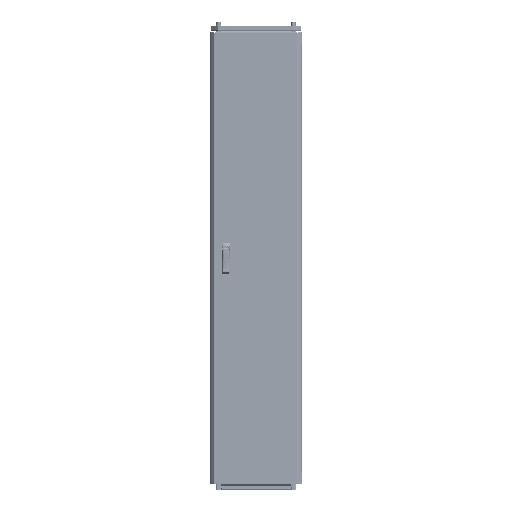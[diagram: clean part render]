
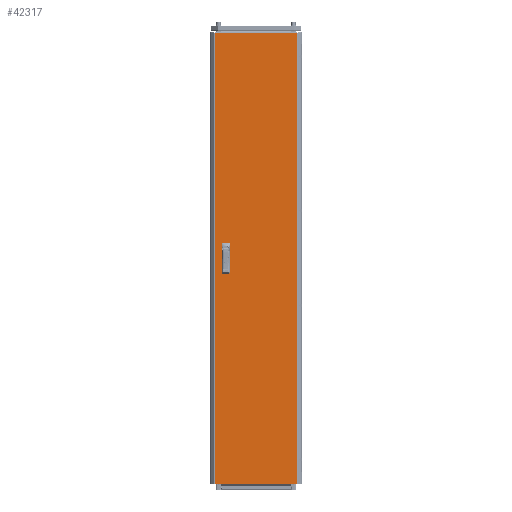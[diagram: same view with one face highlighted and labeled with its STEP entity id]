
A CAD part, top view. The second image highlights one B-rep face of the part: STEP entity #42317.
In plain terms, the highlighted planar face has unit normal (0, 0, 1).
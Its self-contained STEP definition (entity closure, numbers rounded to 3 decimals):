
#50 = LINE ( 'NONE', #35066, #96261 ) ;
#2665 = VECTOR ( 'NONE', #190252, 1000. ) ;
#6036 = DIRECTION ( 'NONE',  ( 0., -1., 0. ) ) ;
#6523 = VERTEX_POINT ( 'NONE', #49342 ) ;
#8901 = ORIENTED_EDGE ( 'NONE', *, *, #146598, .T. ) ;
#9462 = CARTESIAN_POINT ( 'NONE',  ( -177.875, 969.5, 0. ) ) ;
#13513 = DIRECTION ( 'NONE',  ( 1., 0., 0. ) ) ;
#15284 = EDGE_CURVE ( 'NONE', #64626, #6523, #128784, .T. ) ;
#16097 = CARTESIAN_POINT ( 'NONE',  ( 0., 0., 0. ) ) ;
#17109 = CARTESIAN_POINT ( 'NONE',  ( -142.5, 62.5, 0. ) ) ;
#25378 = AXIS2_PLACEMENT_3D ( 'NONE', #16097, #199832, #72222 ) ;
#28546 = CARTESIAN_POINT ( 'NONE',  ( -142.5, -62.5, 0. ) ) ;
#28937 = CARTESIAN_POINT ( 'NONE',  ( -142.5, 62.5, 0. ) ) ;
#31205 = EDGE_CURVE ( 'NONE', #236959, #234649, #70575, .T. ) ;
#34102 = EDGE_CURVE ( 'NONE', #166821, #190703, #112137, .T. ) ;
#35066 = CARTESIAN_POINT ( 'NONE',  ( -177.875, -969.5, 0. ) ) ;
#37888 = CARTESIAN_POINT ( 'NONE',  ( -142.5, -62.5, 0. ) ) ;
#40349 = FACE_BOUND ( 'NONE', #117581, .T. ) ;
#42317 = ADVANCED_FACE ( 'NONE', ( #77758, #40349, #116372 ), #237291, .F. ) ;
#42449 = ORIENTED_EDGE ( 'NONE', *, *, #140048, .F. ) ;
#43329 = LINE ( 'NONE', #48209, #214124 ) ;
#46129 = EDGE_LOOP ( 'NONE', ( #117703, #8901, #193925, #67713 ) ) ;
#48209 = CARTESIAN_POINT ( 'NONE',  ( -142.5, 12.5, 0. ) ) ;
#49342 = CARTESIAN_POINT ( 'NONE',  ( -142.5, -12.5, 0. ) ) ;
#59918 = EDGE_CURVE ( 'NONE', #125519, #237489, #245904, .T. ) ;
#64626 = VERTEX_POINT ( 'NONE', #77672 ) ;
#67713 = ORIENTED_EDGE ( 'NONE', *, *, #123708, .T. ) ;
#70575 = LINE ( 'NONE', #75487, #2665 ) ;
#72026 = CARTESIAN_POINT ( 'NONE',  ( -177.875, 969.5, 0. ) ) ;
#72222 = DIRECTION ( 'NONE',  ( -1., 0., 0. ) ) ;
#73435 = EDGE_LOOP ( 'NONE', ( #126275, #225985, #109787, #86627 ) ) ;
#74957 = LINE ( 'NONE', #245840, #110669 ) ;
#75487 = CARTESIAN_POINT ( 'NONE',  ( -117.5, 12.5, 0. ) ) ;
#77446 = CARTESIAN_POINT ( 'NONE',  ( -142.5, 12.5, 0. ) ) ;
#77672 = CARTESIAN_POINT ( 'NONE',  ( -117.5, -12.5, 0. ) ) ;
#77758 = FACE_BOUND ( 'NONE', #73435, .T. ) ;
#79649 = VERTEX_POINT ( 'NONE', #9462 ) ;
#79965 = CARTESIAN_POINT ( 'NONE',  ( 177.875, 969.5, 0. ) ) ;
#82850 = CARTESIAN_POINT ( 'NONE',  ( -117.5, 12.5, 0. ) ) ;
#86627 = ORIENTED_EDGE ( 'NONE', *, *, #59918, .F. ) ;
#91327 = CARTESIAN_POINT ( 'NONE',  ( -142.5, -12.5, 0. ) ) ;
#95724 = EDGE_CURVE ( 'NONE', #231621, #242717, #235639, .T. ) ;
#96261 = VECTOR ( 'NONE', #149837, 1000. ) ;
#98466 = VECTOR ( 'NONE', #123718, 1000. ) ;
#101109 = CARTESIAN_POINT ( 'NONE',  ( -142.5, -62.5, 0. ) ) ;
#101871 = DIRECTION ( 'NONE',  ( 1., 0., 0. ) ) ;
#107389 = DIRECTION ( 'NONE',  ( 0., 1., 0. ) ) ;
#109787 = ORIENTED_EDGE ( 'NONE', *, *, #150152, .F. ) ;
#110669 = VECTOR ( 'NONE', #107389, 1000. ) ;
#112137 = LINE ( 'NONE', #188258, #126694 ) ;
#116136 = DIRECTION ( 'NONE',  ( 0., -1., 0. ) ) ;
#116372 = FACE_OUTER_BOUND ( 'NONE', #46129, .T. ) ;
#117581 = EDGE_LOOP ( 'NONE', ( #238481, #178988, #119328, #42449 ) ) ;
#117703 = ORIENTED_EDGE ( 'NONE', *, *, #34102, .T. ) ;
#119328 = ORIENTED_EDGE ( 'NONE', *, *, #95724, .F. ) ;
#123708 = EDGE_CURVE ( 'NONE', #213571, #166821, #50, .T. ) ;
#123718 = DIRECTION ( 'NONE',  ( -1., 0., 0. ) ) ;
#125519 = VERTEX_POINT ( 'NONE', #17109 ) ;
#125966 = DIRECTION ( 'NONE',  ( 0., 1., 0. ) ) ;
#126275 = ORIENTED_EDGE ( 'NONE', *, *, #156130, .F. ) ;
#126694 = VECTOR ( 'NONE', #125966, 1000. ) ;
#128784 = LINE ( 'NONE', #91327, #214905 ) ;
#140048 = EDGE_CURVE ( 'NONE', #6523, #231621, #153685, .T. ) ;
#142486 = LINE ( 'NONE', #28937, #98466 ) ;
#146598 = EDGE_CURVE ( 'NONE', #190703, #79649, #244138, .T. ) ;
#149837 = DIRECTION ( 'NONE',  ( 1., 0., 0. ) ) ;
#150039 = DIRECTION ( 'NONE',  ( -1., 0., 0. ) ) ;
#150152 = EDGE_CURVE ( 'NONE', #237489, #236959, #43329, .T. ) ;
#152599 = CARTESIAN_POINT ( 'NONE',  ( -177.875, -969.5, 0. ) ) ;
#153685 = LINE ( 'NONE', #101109, #232565 ) ;
#156130 = EDGE_CURVE ( 'NONE', #234649, #125519, #142486, .T. ) ;
#156234 = CARTESIAN_POINT ( 'NONE',  ( -142.5, 12.5, 0. ) ) ;
#157546 = VECTOR ( 'NONE', #205500, 1000. ) ;
#158184 = CARTESIAN_POINT ( 'NONE',  ( 177.875, -969.5, 0. ) ) ;
#166821 = VERTEX_POINT ( 'NONE', #158184 ) ;
#167524 = VECTOR ( 'NONE', #13513, 1000. ) ;
#176937 = LINE ( 'NONE', #178178, #188232 ) ;
#178178 = CARTESIAN_POINT ( 'NONE',  ( -177.875, -969.5, 0. ) ) ;
#178988 = ORIENTED_EDGE ( 'NONE', *, *, #234581, .F. ) ;
#188232 = VECTOR ( 'NONE', #6036, 1000. ) ;
#188258 = CARTESIAN_POINT ( 'NONE',  ( 177.875, -969.5, 0. ) ) ;
#190252 = DIRECTION ( 'NONE',  ( 0., 1., 0. ) ) ;
#190703 = VERTEX_POINT ( 'NONE', #79965 ) ;
#193925 = ORIENTED_EDGE ( 'NONE', *, *, #204518, .T. ) ;
#194082 = VECTOR ( 'NONE', #228408, 1000. ) ;
#199832 = DIRECTION ( 'NONE',  ( 0., 0., -1. ) ) ;
#204518 = EDGE_CURVE ( 'NONE', #79649, #213571, #176937, .T. ) ;
#204697 = CARTESIAN_POINT ( 'NONE',  ( -117.5, 62.5, 0. ) ) ;
#205500 = DIRECTION ( 'NONE',  ( -1., 0., 0. ) ) ;
#213571 = VERTEX_POINT ( 'NONE', #152599 ) ;
#214124 = VECTOR ( 'NONE', #101871, 1000. ) ;
#214905 = VECTOR ( 'NONE', #150039, 1000. ) ;
#217622 = CARTESIAN_POINT ( 'NONE',  ( -117.5, -62.5, 0. ) ) ;
#225985 = ORIENTED_EDGE ( 'NONE', *, *, #31205, .F. ) ;
#228408 = DIRECTION ( 'NONE',  ( 0., -1., 0. ) ) ;
#231621 = VERTEX_POINT ( 'NONE', #37888 ) ;
#232565 = VECTOR ( 'NONE', #116136, 1000. ) ;
#234581 = EDGE_CURVE ( 'NONE', #242717, #64626, #74957, .T. ) ;
#234649 = VERTEX_POINT ( 'NONE', #204697 ) ;
#235639 = LINE ( 'NONE', #28546, #167524 ) ;
#236959 = VERTEX_POINT ( 'NONE', #82850 ) ;
#237291 = PLANE ( 'NONE',  #25378 ) ;
#237489 = VERTEX_POINT ( 'NONE', #156234 ) ;
#238481 = ORIENTED_EDGE ( 'NONE', *, *, #15284, .F. ) ;
#242717 = VERTEX_POINT ( 'NONE', #217622 ) ;
#244138 = LINE ( 'NONE', #72026, #157546 ) ;
#245840 = CARTESIAN_POINT ( 'NONE',  ( -117.5, -62.5, 0. ) ) ;
#245904 = LINE ( 'NONE', #77446, #194082 ) ;
